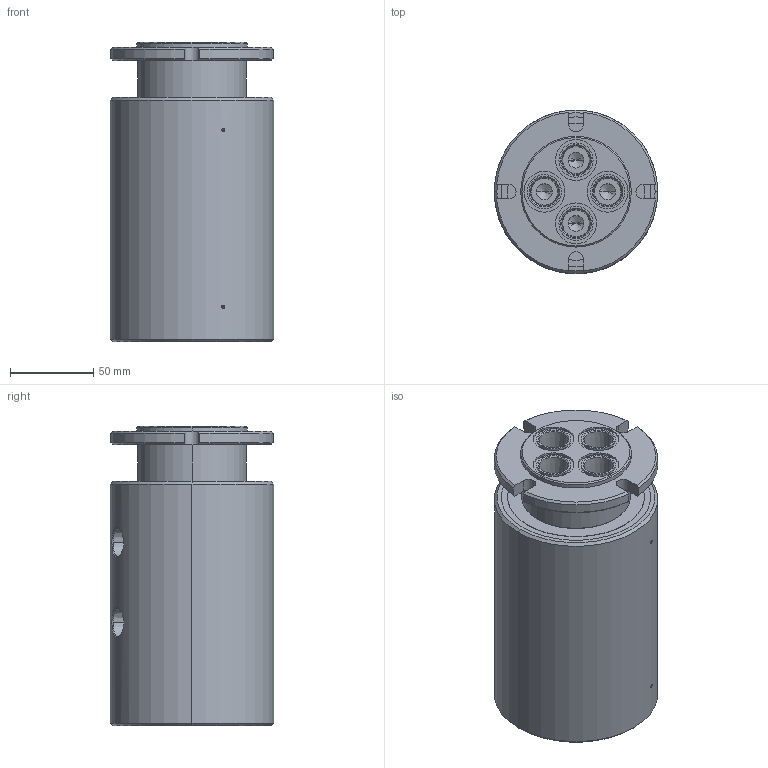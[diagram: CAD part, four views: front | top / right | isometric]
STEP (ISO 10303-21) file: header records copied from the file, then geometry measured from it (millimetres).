
FILE_DESCRIPTION (( 'STEP AP214' ), '1' );
FILE_NAME ('GP(M)-340.STEP', '2013-02-05T22:58:50', ( '' ), ( '' ), 'SwSTEP 2.0', 'SolidWorks 2011', '' );
FILE_SCHEMA (( 'AUTOMOTIVE_DESIGN' ));
Length unit declared in the file: inch
Products named in the file (1): GP(M)-340
Bounding box: 98.42 x 98.42 x 180.47 mm (x, y, z)
Volume: 1208264.9 mm3; surface area: 89772.2 mm2
Topology: 1 solids, 1 shells, 204 faces, 486 edges, 298 vertices
Faces by surface type: cylinder 85, cone 66, plane 43, bspline 8, torus 2
Entity records: 7100 total; most frequent: CARTESIAN_POINT 2083, DIRECTION 1010, ORIENTED_EDGE 916, EDGE_CURVE 458, AXIS2_PLACEMENT_3D 415, VERTEX_POINT 298, EDGE_LOOP 246, CIRCLE 218
